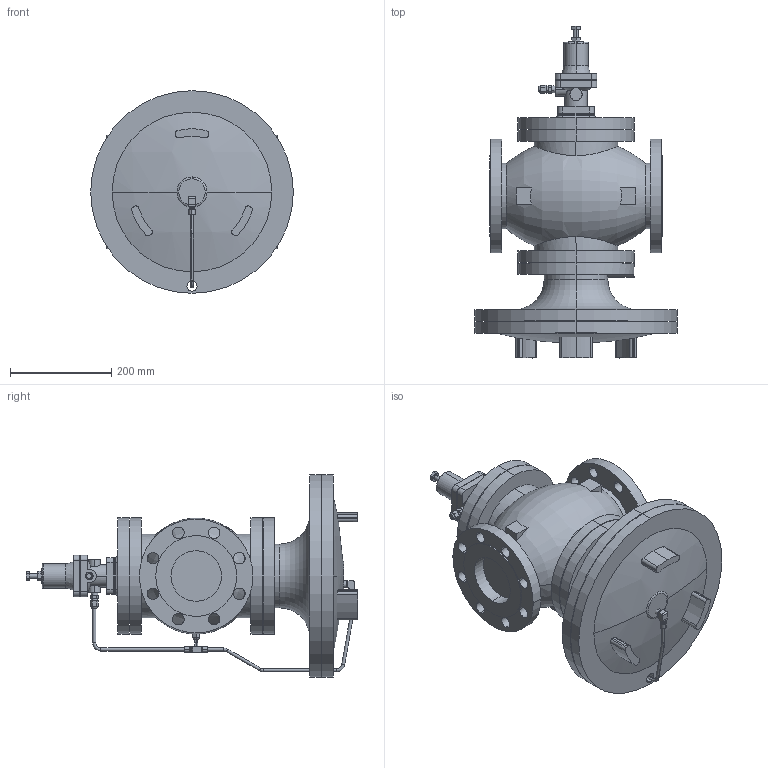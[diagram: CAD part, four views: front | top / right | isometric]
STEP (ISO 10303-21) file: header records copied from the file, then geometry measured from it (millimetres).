
FILE_DESCRIPTION (( 'STEP AP203' ), '1' );
FILE_NAME ('GPR-2000 JIS20K 100A.STEP', '2025-12-05T02:54:44', ( '' ), ( '' ), 'SwSTEP 2.0', 'SolidWorks 2024', '' );
FILE_SCHEMA (( 'CONFIG_CONTROL_DESIGN' ));
Length unit declared in the file: millimetre
Products named in the file (8): GP-2000 Pipe A 100A; Elbow; Pipe B 100A; GPR-2000 Body Assy EN PN25 100A; Pipe C 100A; Tee; Joint; GPR-2000 JIS20K 100A
Assembly tree (9 placements, depth 2):
  GPR-2000 JIS20K 100A
    GPR-2000 Body Assy EN PN25 100A
    Tee
    Joint  x3
    Pipe B 100A
    GP-2000 Pipe A 100A
    Elbow
    Pipe C 100A
Bounding box: 401 x 657.1 x 401 mm (x, y, z)
Volume: 22792675.3 mm3; surface area: 1113782.2 mm2
Topology: 9 solids, 9 shells, 439 faces, 1078 edges, 713 vertices
Faces by surface type: cylinder 198, plane 192, cone 25, torus 22, sphere 2
Entity records: 13830 total; most frequent: CARTESIAN_POINT 3408, DIRECTION 2108, ORIENTED_EDGE 1888, EDGE_CURVE 944, AXIS2_PLACEMENT_3D 831, VERTEX_POINT 617, EDGE_LOOP 481, LINE 446
